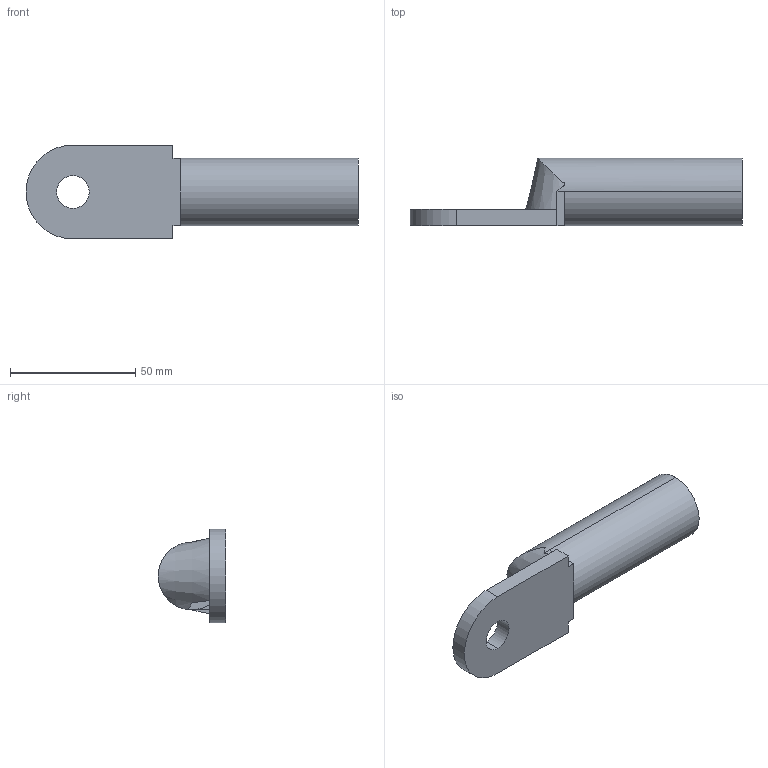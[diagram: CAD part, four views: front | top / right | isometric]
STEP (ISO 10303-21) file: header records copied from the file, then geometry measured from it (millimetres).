
FILE_DESCRIPTION (( 'STEP AP214' ), '1' );
FILE_NAME ('DL-185-12.STEP', '2020-04-24T12:31:34', ( '' ), ( '' ), 'SwSTEP 2.0', 'SolidWorks 2018', '' );
FILE_SCHEMA (( 'AUTOMOTIVE_DESIGN' ));
Length unit declared in the file: millimetre
Products named in the file (1): DL-185-12
Bounding box: 132.75 x 27 x 37.5 mm (x, y, z)
Volume: 39839.5 mm3; surface area: 16708 mm2
Topology: 1 solids, 1 shells, 24 faces, 58 edges, 37 vertices
Faces by surface type: plane 16, cylinder 7, cone 1
Entity records: 816 total; most frequent: CARTESIAN_POINT 213, DIRECTION 118, ORIENTED_EDGE 116, EDGE_CURVE 58, AXIS2_PLACEMENT_3D 42, VERTEX_POINT 37, VECTOR 34, LINE 34
